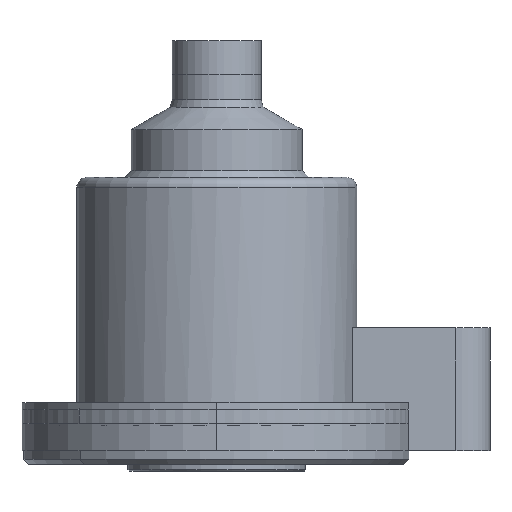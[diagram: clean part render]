
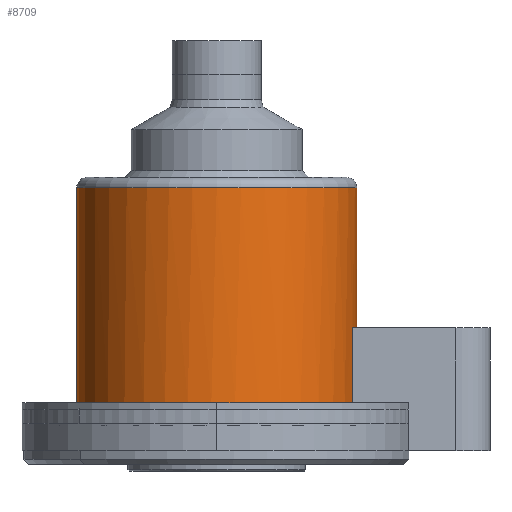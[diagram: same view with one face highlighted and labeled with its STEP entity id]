
A CAD part, front view. The second image highlights one B-rep face of the part: STEP entity #8709.
In plain terms, the highlighted cylindrical face has radius 41 mm (diameter 82 mm), a partial arc.
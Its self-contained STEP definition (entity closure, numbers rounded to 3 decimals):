
#2188 = AXIS2_PLACEMENT_3D ( 'NONE', #4341, #4340, #4339 ) ;
#2190 = AXIS2_PLACEMENT_3D ( 'NONE', #4334, #4332, #4331 ) ;
#2191 = AXIS2_PLACEMENT_3D ( 'NONE', #4329, #4328, #4327 ) ;
#3356 = CIRCLE ( 'NONE', #2191, 41. ) ;
#3368 = CIRCLE ( 'NONE', #2190, 41. ) ;
#3374 = CIRCLE ( 'NONE', #2188, 41. ) ;
#3378 = VECTOR ( 'NONE', #4345, 1000. ) ;
#3381 = LINE ( 'NONE', #4346, #3378 ) ;
#3453 = VECTOR ( 'NONE', #4430, 1000. ) ;
#3455 = LINE ( 'NONE', #4431, #3453 ) ;
#3464 = VECTOR ( 'NONE', #4443, 1000. ) ;
#3466 = LINE ( 'NONE', #4446, #3464 ) ;
#4327 = DIRECTION ( 'NONE',  ( -1., 0., 0. ) ) ;
#4328 = DIRECTION ( 'NONE',  ( 0., 0., -1. ) ) ;
#4329 = CARTESIAN_POINT ( 'NONE',  ( 0., 0., 83. ) ) ;
#4331 = DIRECTION ( 'NONE',  ( 1., 0., 0. ) ) ;
#4332 = DIRECTION ( 'NONE',  ( 0., 0., 1. ) ) ;
#4334 = CARTESIAN_POINT ( 'NONE',  ( 0., 0., 42. ) ) ;
#4339 = DIRECTION ( 'NONE',  ( 0., 1., 0. ) ) ;
#4340 = DIRECTION ( 'NONE',  ( 0., 0., -1. ) ) ;
#4341 = CARTESIAN_POINT ( 'NONE',  ( 0., 0., 20. ) ) ;
#4345 = DIRECTION ( 'NONE',  ( 0., 0., 1. ) ) ;
#4346 = CARTESIAN_POINT ( 'NONE',  ( 39.762, -10., 0. ) ) ;
#4430 = DIRECTION ( 'NONE',  ( 0., 0., -1. ) ) ;
#4431 = CARTESIAN_POINT ( 'NONE',  ( -41., 0., 0. ) ) ;
#4443 = DIRECTION ( 'NONE',  ( 0., 0., -1. ) ) ;
#4446 = CARTESIAN_POINT ( 'NONE',  ( 41., 0., 0. ) ) ;
#7111 = DIRECTION ( 'NONE',  ( -1., 0., 0. ) ) ;
#7114 = DIRECTION ( 'NONE',  ( 0., 0., -1. ) ) ;
#7115 = CARTESIAN_POINT ( 'NONE',  ( 0., 0., 0. ) ) ;
#7154 = CARTESIAN_POINT ( 'NONE',  ( -41., 0., 83. ) ) ;
#8006 = CARTESIAN_POINT ( 'NONE',  ( 41., 0., 42. ) ) ;
#8060 = CARTESIAN_POINT ( 'NONE',  ( 39.762, -10., 42. ) ) ;
#8073 = CARTESIAN_POINT ( 'NONE',  ( -41., 0., 20. ) ) ;
#8077 = CARTESIAN_POINT ( 'NONE',  ( 39.762, -10., 20. ) ) ;
#8084 = CARTESIAN_POINT ( 'NONE',  ( 41., 0., 83. ) ) ;
#8484 = VERTEX_POINT ( 'NONE', #7154 ) ;
#8519 = VERTEX_POINT ( 'NONE', #8084 ) ;
#8526 = VERTEX_POINT ( 'NONE', #8077 ) ;
#8528 = VERTEX_POINT ( 'NONE', #8073 ) ;
#8539 = VERTEX_POINT ( 'NONE', #8060 ) ;
#8584 = VERTEX_POINT ( 'NONE', #8006 ) ;
#8709 = ADVANCED_FACE ( 'NONE', ( #10462 ), #10454, .T. ) ;
#9475 = EDGE_CURVE ( 'NONE', #8519, #8584, #3466, .T. ) ;
#9479 = EDGE_CURVE ( 'NONE', #8484, #8528, #3455, .T. ) ;
#9506 = EDGE_CURVE ( 'NONE', #8526, #8539, #3381, .T. ) ;
#9508 = EDGE_CURVE ( 'NONE', #8526, #8528, #3374, .T. ) ;
#9510 = EDGE_CURVE ( 'NONE', #8539, #8584, #3368, .T. ) ;
#9511 = EDGE_CURVE ( 'NONE', #8519, #8484, #3356, .T. ) ;
#9800 = AXIS2_PLACEMENT_3D ( 'NONE', #7115, #7114, #7111 ) ;
#10454 = CYLINDRICAL_SURFACE ( 'NONE', #9800, 41. ) ;
#10462 = FACE_OUTER_BOUND ( 'NONE', #10646, .T. ) ;
#10596 = ORIENTED_EDGE ( 'NONE', *, *, #9475, .F. ) ;
#10597 = ORIENTED_EDGE ( 'NONE', *, *, #9511, .T. ) ;
#10598 = ORIENTED_EDGE ( 'NONE', *, *, #9479, .T. ) ;
#10599 = ORIENTED_EDGE ( 'NONE', *, *, #9508, .F. ) ;
#10600 = ORIENTED_EDGE ( 'NONE', *, *, #9506, .T. ) ;
#10601 = ORIENTED_EDGE ( 'NONE', *, *, #9510, .T. ) ;
#10646 = EDGE_LOOP ( 'NONE', ( #10596, #10597, #10598, #10599, #10600, #10601 ) ) ;
